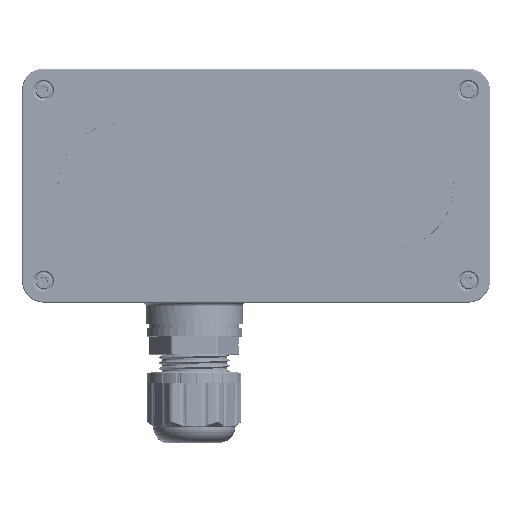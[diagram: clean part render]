
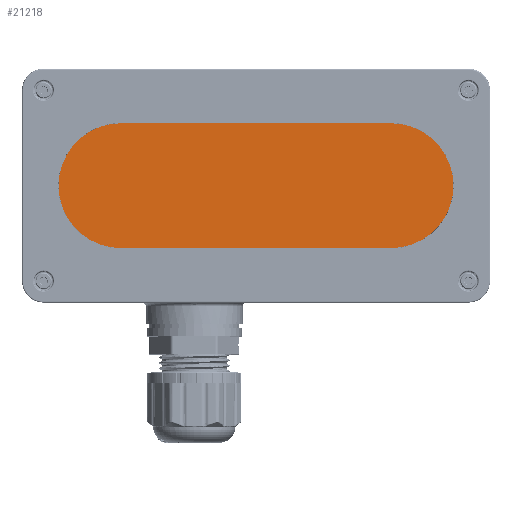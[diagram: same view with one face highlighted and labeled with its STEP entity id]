
A CAD part, top view. The second image highlights one B-rep face of the part: STEP entity #21218.
In plain terms, the highlighted planar face has unit normal (0, 0, 1).
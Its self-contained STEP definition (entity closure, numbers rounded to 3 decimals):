
#20999=DIRECTION('',(1.,0.,0.));
#21000=VECTOR('',#20999,75.);
#21001=CARTESIAN_POINT('',(-37.5,19.848,36.2));
#21002=LINE('',#21001,#21000);
#21011=DIRECTION('',(-1.,0.,0.));
#21012=VECTOR('',#21011,75.);
#21013=CARTESIAN_POINT('',(37.5,-14.848,36.2));
#21014=LINE('',#21013,#21012);
#21019=CARTESIAN_POINT('',(37.5,2.5,36.2));
#21020=DIRECTION('',(0.,0.,1.));
#21021=DIRECTION('',(0.,-1.,0.));
#21022=AXIS2_PLACEMENT_3D('',#21019,#21020,#21021);
#21024=CARTESIAN_POINT('',(-37.5,2.5,36.2));
#21025=DIRECTION('',(0.,0.,1.));
#21026=DIRECTION('',(-1.,0.,0.));
#21027=AXIS2_PLACEMENT_3D('',#21024,#21025,#21026);
#21029=CARTESIAN_POINT('',(-37.5,2.5,36.2));
#21030=DIRECTION('',(0.,0.,1.));
#21031=DIRECTION('',(0.,1.,0.));
#21032=AXIS2_PLACEMENT_3D('',#21029,#21030,#21031);
#21092=CARTESIAN_POINT('',(-54.848,2.5,36.2));
#21093=CARTESIAN_POINT('',(-37.5,-14.848,36.2));
#21094=VERTEX_POINT('',#21092);
#21095=VERTEX_POINT('',#21093);
#21096=CARTESIAN_POINT('',(-37.5,19.848,36.2));
#21097=VERTEX_POINT('',#21096);
#21098=CARTESIAN_POINT('',(37.5,19.848,36.2));
#21099=VERTEX_POINT('',#21098);
#21100=CARTESIAN_POINT('',(37.5,-14.848,36.2));
#21101=VERTEX_POINT('',#21100);
#21205=CARTESIAN_POINT('',(-37.5,2.5,36.2));
#21206=DIRECTION('',(0.,0.,1.));
#21207=DIRECTION('',(-1.,0.,0.));
#21208=AXIS2_PLACEMENT_3D('',#21205,#21206,#21207);
#21209=PLANE('',#21208);
#21210=ORIENTED_EDGE('',*,*,#21156,.T.);
#21211=ORIENTED_EDGE('',*,*,#21171,.F.);
#21212=ORIENTED_EDGE('',*,*,#21185,.T.);
#21213=ORIENTED_EDGE('',*,*,#21196,.F.);
#21215=ORIENTED_EDGE('',*,*,#21214,.F.);
#21216=EDGE_LOOP('',(#21210,#21211,#21212,#21213,#21215));
#21217=FACE_OUTER_BOUND('',#21216,.F.);
#21218=ADVANCED_FACE('',(#21217),#21209,.T.);
#21023=CIRCLE('',#21022,17.348);
#21028=CIRCLE('',#21027,17.348);
#21033=CIRCLE('',#21032,17.348);
#21156=EDGE_CURVE('',#21097,#21099,#21002,.T.);
#21171=EDGE_CURVE('',#21101,#21099,#21023,.T.);
#21185=EDGE_CURVE('',#21101,#21095,#21014,.T.);
#21196=EDGE_CURVE('',#21094,#21095,#21028,.T.);
#21214=EDGE_CURVE('',#21097,#21094,#21033,.T.);
